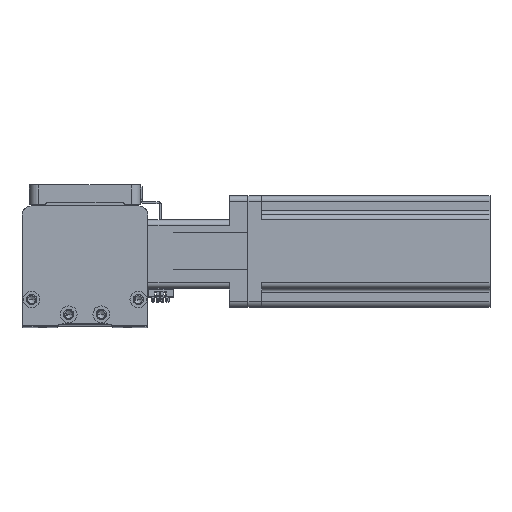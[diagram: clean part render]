
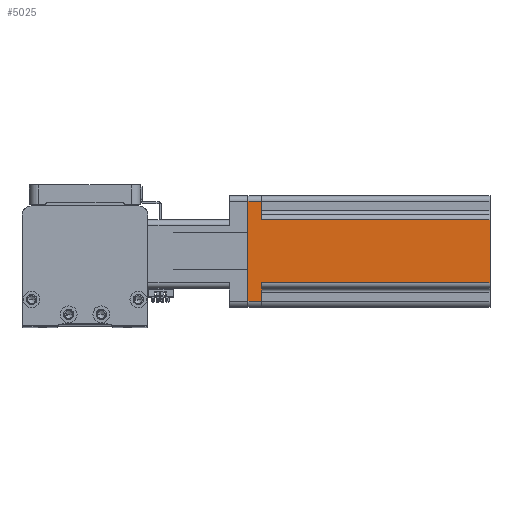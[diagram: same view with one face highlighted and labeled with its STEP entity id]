
A CAD part, top view. The second image highlights one B-rep face of the part: STEP entity #5025.
In plain terms, the highlighted planar face has unit normal (0, 0, 1) as drawn and (1, 0, 0) by its records, which use the part's own axes.
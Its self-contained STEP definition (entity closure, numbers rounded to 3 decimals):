
#677 = CARTESIAN_POINT ( 'NONE',  ( 30., -17., 7.5 ) ) ;
#815 = ORIENTED_EDGE ( 'NONE', *, *, #4936, .T. ) ;
#1819 = CARTESIAN_POINT ( 'NONE',  ( 30., -27., 7.5 ) ) ;
#1905 = CARTESIAN_POINT ( 'NONE',  ( 30., -27., 0. ) ) ;
#2909 = VECTOR ( 'NONE', #33774, 1000. ) ;
#3543 = LINE ( 'NONE', #39049, #36319 ) ;
#4628 = PLANE ( 'NONE',  #10569 ) ;
#4699 = EDGE_CURVE ( 'NONE', #28388, #34179, #19785, .T. ) ;
#4936 = EDGE_CURVE ( 'NONE', #36518, #34179, #18756, .T. ) ;
#5025 = ADVANCED_FACE ( 'NONE', ( #21212 ), #4628, .F. ) ;
#5127 = VECTOR ( 'NONE', #5961, 1000. ) ;
#5961 = DIRECTION ( 'NONE',  ( 0., 1., 0. ) ) ;
#7418 = DIRECTION ( 'NONE',  ( 0., -1., 0. ) ) ;
#8301 = EDGE_CURVE ( 'NONE', #28388, #25875, #32464, .T. ) ;
#8659 = EDGE_CURVE ( 'NONE', #26470, #26071, #21978, .T. ) ;
#8723 = DIRECTION ( 'NONE',  ( 0., 1., 0. ) ) ;
#9019 = ORIENTED_EDGE ( 'NONE', *, *, #39819, .T. ) ;
#10341 = VECTOR ( 'NONE', #16549, 1000. ) ;
#10569 = AXIS2_PLACEMENT_3D ( 'NONE', #17372, #39588, #20569 ) ;
#11608 = CARTESIAN_POINT ( 'NONE',  ( 30., -30., 130.7 ) ) ;
#12094 = CARTESIAN_POINT ( 'NONE',  ( 30., 27., 0. ) ) ;
#12492 = VECTOR ( 'NONE', #8723, 1000. ) ;
#12845 = CARTESIAN_POINT ( 'NONE',  ( 30., 27., 130.7 ) ) ;
#13692 = LINE ( 'NONE', #41104, #21099 ) ;
#15574 = EDGE_CURVE ( 'NONE', #20981, #26470, #13692, .T. ) ;
#16549 = DIRECTION ( 'NONE',  ( 0., 0., 1. ) ) ;
#17372 = CARTESIAN_POINT ( 'NONE',  ( 30., -30., 130.7 ) ) ;
#17755 = ORIENTED_EDGE ( 'NONE', *, *, #4699, .F. ) ;
#18756 = LINE ( 'NONE', #35571, #10341 ) ;
#19785 = LINE ( 'NONE', #11608, #2909 ) ;
#20538 = CARTESIAN_POINT ( 'NONE',  ( 30., -17., 7.5 ) ) ;
#20569 = DIRECTION ( 'NONE',  ( 0., 0., 1. ) ) ;
#20907 = ORIENTED_EDGE ( 'NONE', *, *, #32528, .T. ) ;
#20981 = VERTEX_POINT ( 'NONE', #1819 ) ;
#21099 = VECTOR ( 'NONE', #21934, 1000. ) ;
#21174 = CARTESIAN_POINT ( 'NONE',  ( 30., 30., 7.5 ) ) ;
#21212 = FACE_OUTER_BOUND ( 'NONE', #22452, .T. ) ;
#21389 = ORIENTED_EDGE ( 'NONE', *, *, #8301, .T. ) ;
#21934 = DIRECTION ( 'NONE',  ( 0., 0., -1. ) ) ;
#21978 = LINE ( 'NONE', #34235, #5127 ) ;
#22452 = EDGE_LOOP ( 'NONE', ( #17755, #21389, #20907, #31185, #26814, #9019, #28159, #815 ) ) ;
#24845 = VERTEX_POINT ( 'NONE', #27035 ) ;
#24956 = EDGE_CURVE ( 'NONE', #36518, #24845, #37790, .T. ) ;
#25875 = VERTEX_POINT ( 'NONE', #20538 ) ;
#26071 = VERTEX_POINT ( 'NONE', #12094 ) ;
#26470 = VERTEX_POINT ( 'NONE', #1905 ) ;
#26814 = ORIENTED_EDGE ( 'NONE', *, *, #8659, .T. ) ;
#27035 = CARTESIAN_POINT ( 'NONE',  ( 30., 27., 7.5 ) ) ;
#28159 = ORIENTED_EDGE ( 'NONE', *, *, #24956, .F. ) ;
#28388 = VERTEX_POINT ( 'NONE', #31199 ) ;
#28557 = LINE ( 'NONE', #12845, #36983 ) ;
#31085 = CARTESIAN_POINT ( 'NONE',  ( 30., 17., 7.5 ) ) ;
#31185 = ORIENTED_EDGE ( 'NONE', *, *, #15574, .T. ) ;
#31199 = CARTESIAN_POINT ( 'NONE',  ( 30., -17., 130.7 ) ) ;
#31833 = DIRECTION ( 'NONE',  ( 0., 0., 1. ) ) ;
#32464 = LINE ( 'NONE', #677, #40910 ) ;
#32528 = EDGE_CURVE ( 'NONE', #25875, #20981, #3543, .T. ) ;
#33774 = DIRECTION ( 'NONE',  ( 0., 1., 0. ) ) ;
#34179 = VERTEX_POINT ( 'NONE', #36143 ) ;
#34235 = CARTESIAN_POINT ( 'NONE',  ( 30., -30., 0. ) ) ;
#35510 = DIRECTION ( 'NONE',  ( 0., 0., -1. ) ) ;
#35571 = CARTESIAN_POINT ( 'NONE',  ( 30., 17., 130.7 ) ) ;
#36143 = CARTESIAN_POINT ( 'NONE',  ( 30., 17., 130.7 ) ) ;
#36319 = VECTOR ( 'NONE', #7418, 1000. ) ;
#36518 = VERTEX_POINT ( 'NONE', #31085 ) ;
#36983 = VECTOR ( 'NONE', #31833, 1000. ) ;
#37790 = LINE ( 'NONE', #21174, #12492 ) ;
#39049 = CARTESIAN_POINT ( 'NONE',  ( 30., -30., 7.5 ) ) ;
#39588 = DIRECTION ( 'NONE',  ( -1., 0., 0. ) ) ;
#39819 = EDGE_CURVE ( 'NONE', #26071, #24845, #28557, .T. ) ;
#40910 = VECTOR ( 'NONE', #35510, 1000. ) ;
#41104 = CARTESIAN_POINT ( 'NONE',  ( 30., -27., 130.7 ) ) ;
